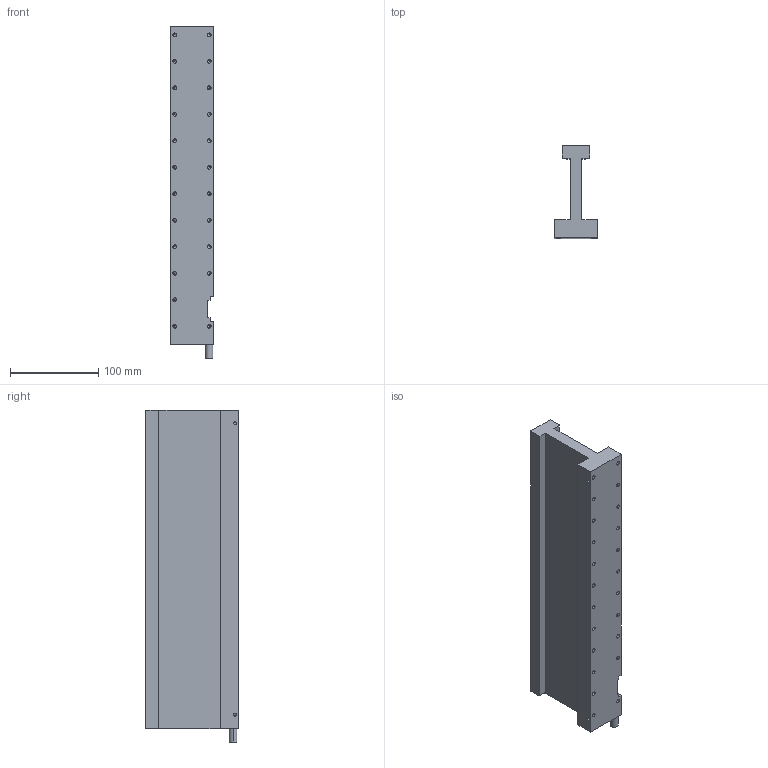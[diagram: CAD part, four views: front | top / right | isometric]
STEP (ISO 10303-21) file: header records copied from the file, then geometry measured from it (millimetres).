
FILE_DESCRIPTION (( 'STEP AP214' ), '1' );
FILE_NAME ('JKA56.STEP', '2025-09-05T08:50:17', ( '' ), ( '' ), 'SwSTEP 2.0', 'SolidWorks 2016', '' );
FILE_SCHEMA (( 'AUTOMOTIVE_DESIGN' ));
Length unit declared in the file: millimetre
Products named in the file (1): JKA56
Bounding box: 49 x 104.8 x 376 mm (x, y, z)
Volume: 850784 mm3; surface area: 133605.2 mm2
Topology: 1 solids, 1 shells, 155 faces, 399 edges, 217 vertices
Faces by surface type: cylinder 68, cone 58, plane 29
Entity records: 4965 total; most frequent: DIRECTION 779, CARTESIAN_POINT 760, ORIENTED_EDGE 682, EDGE_CURVE 341, AXIS2_PLACEMENT_3D 288, VERTEX_POINT 217, VECTOR 203, LINE 203
